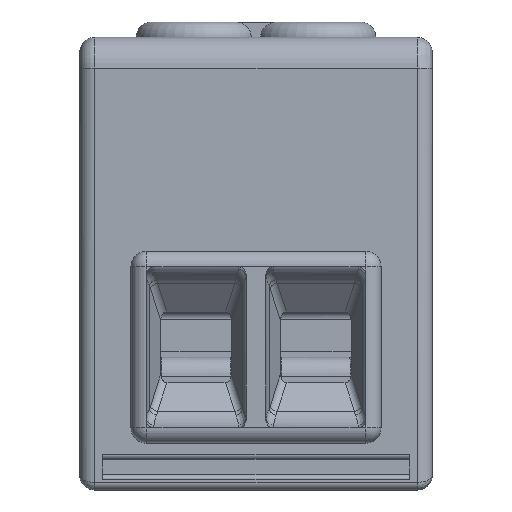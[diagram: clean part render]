
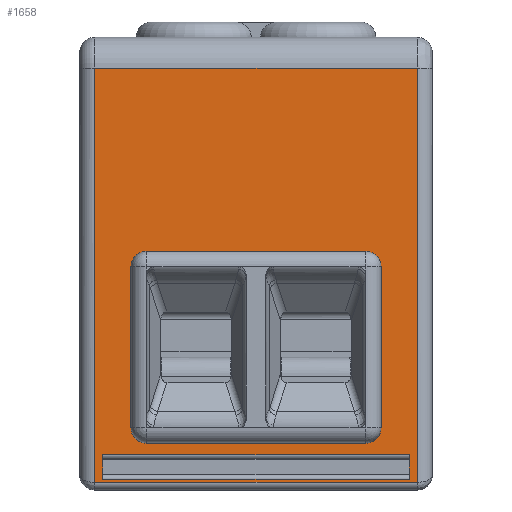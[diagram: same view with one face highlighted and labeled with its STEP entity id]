
A CAD part, front view. The second image highlights one B-rep face of the part: STEP entity #1658.
In plain terms, the highlighted planar face has unit normal (0, -1, 0).
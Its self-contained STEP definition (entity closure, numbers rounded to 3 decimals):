
#34=FACE_BOUND('',#2047,.T.);
#35=FACE_BOUND('',#2048,.T.);
#36=FACE_BOUND('',#2049,.T.);
#1658=ADVANCED_FACE('',(#34,#35,#36),#1733,.T.);
#1733=PLANE('',#5061);
#2047=EDGE_LOOP('',(#3376,#3377,#3378,#3379));
#2048=EDGE_LOOP('',(#3380,#3381,#3382,#3383,#3384,#3385,#3386,#3387));
#2049=EDGE_LOOP('',(#3388,#3389,#3390,#3391));
#2285=LINE('',#7733,#2574);
#2296=LINE('',#7772,#2585);
#2325=LINE('',#7877,#2614);
#2326=LINE('',#7879,#2615);
#2329=LINE('',#7900,#2618);
#2330=LINE('',#7902,#2619);
#2332=LINE('',#7913,#2621);
#2334=LINE('',#7922,#2623);
#2335=LINE('',#7926,#2624);
#2336=LINE('',#7927,#2625);
#2337=LINE('',#7928,#2626);
#2338=LINE('',#7929,#2627);
#2574=VECTOR('',#5852,1.);
#2585=VECTOR('',#5891,1.);
#2614=VECTOR('',#5972,1.);
#2615=VECTOR('',#5975,1.);
#2618=VECTOR('',#6006,1.);
#2619=VECTOR('',#6009,1.);
#2621=VECTOR('',#6023,1.);
#2623=VECTOR('',#6031,1.);
#2624=VECTOR('',#6036,1.);
#2625=VECTOR('',#6037,1.);
#2626=VECTOR('',#6038,1.);
#2627=VECTOR('',#6039,1.);
#3376=ORIENTED_EDGE('',*,*,#4386,.T.);
#3377=ORIENTED_EDGE('',*,*,#4454,.T.);
#3378=ORIENTED_EDGE('',*,*,#4367,.T.);
#3379=ORIENTED_EDGE('',*,*,#4455,.T.);
#3380=ORIENTED_EDGE('',*,*,#4390,.T.);
#3381=ORIENTED_EDGE('',*,*,#4444,.T.);
#3382=ORIENTED_EDGE('',*,*,#4418,.T.);
#3383=ORIENTED_EDGE('',*,*,#4445,.T.);
#3384=ORIENTED_EDGE('',*,*,#4430,.T.);
#3385=ORIENTED_EDGE('',*,*,#4433,.F.);
#3386=ORIENTED_EDGE('',*,*,#4408,.T.);
#3387=ORIENTED_EDGE('',*,*,#4432,.F.);
#3388=ORIENTED_EDGE('',*,*,#4456,.T.);
#3389=ORIENTED_EDGE('',*,*,#4448,.T.);
#3390=ORIENTED_EDGE('',*,*,#4457,.T.);
#3391=ORIENTED_EDGE('',*,*,#4452,.T.);
#3850=VERTEX_POINT('',#7734);
#3851=VERTEX_POINT('',#7735);
#3861=VERTEX_POINT('',#7767);
#3863=VERTEX_POINT('',#7771);
#3866=VERTEX_POINT('',#7797);
#3867=VERTEX_POINT('',#7799);
#3880=VERTEX_POINT('',#7832);
#3881=VERTEX_POINT('',#7834);
#3887=VERTEX_POINT('',#7851);
#3888=VERTEX_POINT('',#7853);
#3894=VERTEX_POINT('',#7872);
#3895=VERTEX_POINT('',#7874);
#3902=VERTEX_POINT('',#7912);
#3903=VERTEX_POINT('',#7914);
#3906=VERTEX_POINT('',#7921);
#3907=VERTEX_POINT('',#7923);
#4367=EDGE_CURVE('',#3850,#3851,#2285,.T.);
#4386=EDGE_CURVE('',#3861,#3863,#2296,.T.);
#4390=EDGE_CURVE('',#3867,#3866,#4672,.T.);
#4408=EDGE_CURVE('',#3881,#3880,#4678,.T.);
#4418=EDGE_CURVE('',#3888,#3887,#4682,.T.);
#4430=EDGE_CURVE('',#3895,#3894,#4686,.T.);
#4432=EDGE_CURVE('',#3867,#3880,#2325,.T.);
#4433=EDGE_CURVE('',#3881,#3894,#2326,.T.);
#4444=EDGE_CURVE('',#3866,#3888,#2329,.T.);
#4445=EDGE_CURVE('',#3887,#3895,#2330,.T.);
#4448=EDGE_CURVE('',#3903,#3902,#2332,.T.);
#4452=EDGE_CURVE('',#3907,#3906,#2334,.T.);
#4454=EDGE_CURVE('',#3863,#3850,#2335,.T.);
#4455=EDGE_CURVE('',#3851,#3861,#2336,.T.);
#4456=EDGE_CURVE('',#3906,#3903,#2337,.T.);
#4457=EDGE_CURVE('',#3902,#3907,#2338,.T.);
#4672=CIRCLE('',#5011,1.);
#4678=CIRCLE('',#5020,1.);
#4682=CIRCLE('',#5026,1.);
#4686=CIRCLE('',#5032,1.);
#5011=AXIS2_PLACEMENT_3D('',#7798,#5899,#5900);
#5020=AXIS2_PLACEMENT_3D('',#7833,#5929,#5930);
#5026=AXIS2_PLACEMENT_3D('',#7852,#5947,#5948);
#5032=AXIS2_PLACEMENT_3D('',#7873,#5967,#5968);
#5061=AXIS2_PLACEMENT_3D('',#7930,#6040,#6041);
#5852=DIRECTION('',(1.,0.,0.));
#5891=DIRECTION('',(-1.,0.,0.));
#5899=DIRECTION('',(0.,1.,0.));
#5900=DIRECTION('',(0.,0.,-1.));
#5929=DIRECTION('',(0.,1.,0.));
#5930=DIRECTION('',(1.,0.,0.));
#5947=DIRECTION('',(0.,1.,0.));
#5948=DIRECTION('',(-1.,0.,0.));
#5967=DIRECTION('',(0.,1.,0.));
#5968=DIRECTION('',(0.,0.,1.));
#5972=DIRECTION('',(1.,0.,0.));
#5975=DIRECTION('',(0.,0.,1.));
#6006=DIRECTION('',(0.,0.,1.));
#6009=DIRECTION('',(1.,0.,0.));
#6023=DIRECTION('',(1.,0.,0.));
#6031=DIRECTION('',(-1.,0.,0.));
#6036=DIRECTION('',(0.,0.,-1.));
#6037=DIRECTION('',(0.,0.,1.));
#6038=DIRECTION('',(0.,0.,1.));
#6039=DIRECTION('',(0.,0.,-1.));
#6040=DIRECTION('',(0.,-1.,0.));
#6041=DIRECTION('',(-1.,0.,0.));
#7733=CARTESIAN_POINT('',(-22.,9.45,-44.55));
#7734=CARTESIAN_POINT('',(-22.,9.45,-44.55));
#7735=CARTESIAN_POINT('',(-1.,9.45,-44.55));
#7767=CARTESIAN_POINT('',(-1.,9.45,-17.55));
#7771=CARTESIAN_POINT('',(-22.,9.45,-17.55));
#7772=CARTESIAN_POINT('',(-1.,9.45,-17.55));
#7797=CARTESIAN_POINT('',(-19.65,9.45,-41.));
#7798=CARTESIAN_POINT('',(-18.65,9.45,-41.));
#7799=CARTESIAN_POINT('',(-18.65,9.45,-42.));
#7832=CARTESIAN_POINT('',(-4.35,9.45,-42.));
#7833=CARTESIAN_POINT('',(-4.35,9.45,-41.));
#7834=CARTESIAN_POINT('',(-3.35,9.45,-41.));
#7851=CARTESIAN_POINT('',(-18.65,9.45,-29.5));
#7852=CARTESIAN_POINT('',(-18.65,9.45,-30.5));
#7853=CARTESIAN_POINT('',(-19.65,9.45,-30.5));
#7872=CARTESIAN_POINT('',(-3.35,9.45,-30.5));
#7873=CARTESIAN_POINT('',(-4.35,9.45,-30.5));
#7874=CARTESIAN_POINT('',(-4.35,9.45,-29.5));
#7877=CARTESIAN_POINT('',(-18.65,9.45,-42.));
#7879=CARTESIAN_POINT('',(-3.35,9.45,-41.));
#7900=CARTESIAN_POINT('',(-19.65,9.45,-41.));
#7902=CARTESIAN_POINT('',(-18.65,9.45,-29.5));
#7912=CARTESIAN_POINT('',(-1.5,9.45,-42.75));
#7913=CARTESIAN_POINT('',(-21.5,9.45,-42.75));
#7914=CARTESIAN_POINT('',(-21.5,9.45,-42.75));
#7921=CARTESIAN_POINT('',(-21.5,9.45,-44.35));
#7922=CARTESIAN_POINT('',(-1.5,9.45,-44.35));
#7923=CARTESIAN_POINT('',(-1.5,9.45,-44.35));
#7926=CARTESIAN_POINT('',(-22.,9.45,-17.55));
#7927=CARTESIAN_POINT('',(-1.,9.45,-44.55));
#7928=CARTESIAN_POINT('',(-21.5,9.45,-42.75));
#7929=CARTESIAN_POINT('',(-1.5,9.45,-42.75));
#7930=CARTESIAN_POINT('',(-25.301,9.45,-48.));
